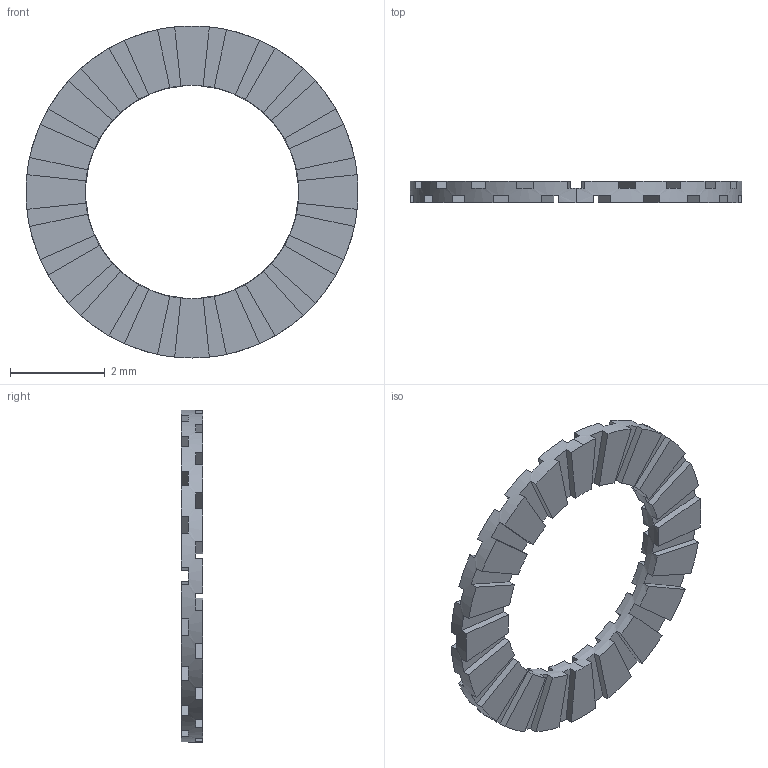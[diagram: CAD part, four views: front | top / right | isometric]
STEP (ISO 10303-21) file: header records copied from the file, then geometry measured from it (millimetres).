
FILE_DESCRIPTION (( 'STEP AP214' ), '1' );
FILE_NAME ('PTS-M4.STEP', '2019-10-30T05:23:53', ( '微软用户' ), ( '微软中国' ), 'SwSTEP 2.0', 'SolidWorks 2016', '' );
FILE_SCHEMA (( 'AUTOMOTIVE_DESIGN' ));
Length unit declared in the file: millimetre
Products named in the file (1): PTS-M4
Bounding box: 7 x 0.45 x 7 mm (x, y, z)
Volume: 7.9 mm3; surface area: 72.8 mm2
Topology: 1 solids, 1 shells, 164 faces, 492 edges, 328 vertices
Faces by surface type: plane 160, cylinder 4
Entity records: 5622 total; most frequent: DIRECTION 990, CARTESIAN_POINT 985, ORIENTED_EDGE 984, EDGE_CURVE 492, AXIS2_PLACEMENT_3D 333, VERTEX_POINT 328, LINE 324, VECTOR 324
